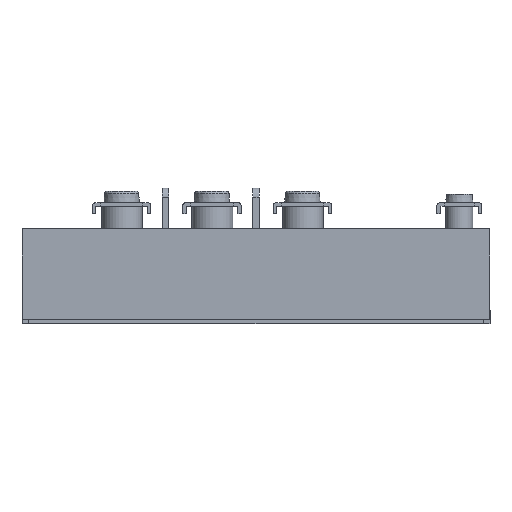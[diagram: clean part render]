
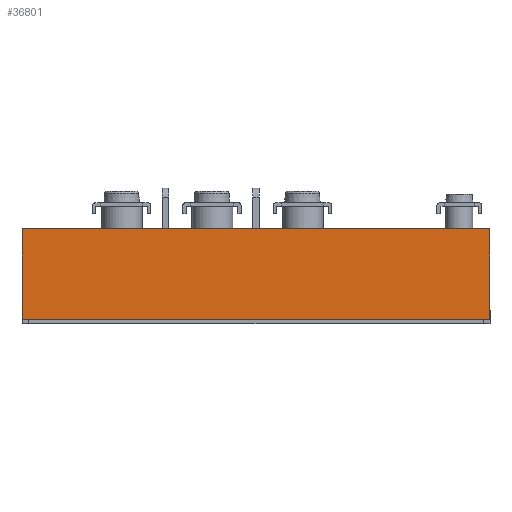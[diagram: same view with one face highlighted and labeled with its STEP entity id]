
A CAD part, front view. The second image highlights one B-rep face of the part: STEP entity #36801.
In plain terms, the highlighted planar face has unit normal (0, -1, 0).
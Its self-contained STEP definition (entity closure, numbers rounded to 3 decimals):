
#31892 = PLANE('',#31893);
#31893 = AXIS2_PLACEMENT_3D('',#31894,#31895,#31896);
#31894 = CARTESIAN_POINT('',(0.,58.813,18.));
#31895 = DIRECTION('',(0.,0.,-1.));
#31896 = DIRECTION('',(-1.,0.,0.));
#32034 = VERTEX_POINT('',#32035);
#32035 = CARTESIAN_POINT('',(-5.85,-1.5,18.));
#32049 = PLANE('',#32050);
#32050 = AXIS2_PLACEMENT_3D('',#32051,#32052,#32053);
#32051 = CARTESIAN_POINT('',(-5.85,5.713,18.));
#32052 = DIRECTION('',(1.,0.,0.));
#32053 = DIRECTION('',(0.,1.,0.));
#32061 = EDGE_CURVE('',#32034,#32062,#32064,.T.);
#32062 = VERTEX_POINT('',#32063);
#32063 = CARTESIAN_POINT('',(97.65,-1.5,18.));
#32064 = SURFACE_CURVE('',#32065,(#32069,#32076),.PCURVE_S1.);
#32065 = LINE('',#32066,#32067);
#32066 = CARTESIAN_POINT('',(-5.85,-1.5,18.));
#32067 = VECTOR('',#32068,1.);
#32068 = DIRECTION('',(1.,0.,0.));
#32069 = PCURVE('',#31892,#32070);
#32070 = DEFINITIONAL_REPRESENTATION('',(#32071),#32075);
#32071 = LINE('',#32072,#32073);
#32072 = CARTESIAN_POINT('',(5.85,-60.313));
#32073 = VECTOR('',#32074,1.);
#32074 = DIRECTION('',(-1.,0.));
#32075 = ( GEOMETRIC_REPRESENTATION_CONTEXT(2) 
PARAMETRIC_REPRESENTATION_CONTEXT() REPRESENTATION_CONTEXT('2D SPACE',''
  ) );
#32076 = PCURVE('',#32077,#32082);
#32077 = PLANE('',#32078);
#32078 = AXIS2_PLACEMENT_3D('',#32079,#32080,#32081);
#32079 = CARTESIAN_POINT('',(-5.85,-1.5,18.));
#32080 = DIRECTION('',(0.,1.,0.));
#32081 = DIRECTION('',(0.,0.,1.));
#32082 = DEFINITIONAL_REPRESENTATION('',(#32083),#32087);
#32083 = LINE('',#32084,#32085);
#32084 = CARTESIAN_POINT('',(0.,0.));
#32085 = VECTOR('',#32086,1.);
#32086 = DIRECTION('',(0.,1.));
#32087 = ( GEOMETRIC_REPRESENTATION_CONTEXT(2) 
PARAMETRIC_REPRESENTATION_CONTEXT() REPRESENTATION_CONTEXT('2D SPACE',''
  ) );
#32105 = PLANE('',#32106);
#32106 = AXIS2_PLACEMENT_3D('',#32107,#32108,#32109);
#32107 = CARTESIAN_POINT('',(97.65,5.709,18.));
#32108 = DIRECTION('',(1.,0.,0.));
#32109 = DIRECTION('',(0.,1.,0.));
#33165 = PLANE('',#33166);
#33166 = AXIS2_PLACEMENT_3D('',#33167,#33168,#33169);
#33167 = CARTESIAN_POINT('',(0.,58.813,-2.));
#33168 = DIRECTION('',(0.,0.,-1.));
#33169 = DIRECTION('',(-1.,0.,0.));
#35133 = VERTEX_POINT('',#35134);
#35134 = CARTESIAN_POINT('',(97.65,-1.5,-2.));
#35155 = EDGE_CURVE('',#35156,#35133,#35158,.T.);
#35156 = VERTEX_POINT('',#35157);
#35157 = CARTESIAN_POINT('',(-5.85,-1.5,-2.));
#35158 = SURFACE_CURVE('',#35159,(#35163,#35170),.PCURVE_S1.);
#35159 = LINE('',#35160,#35161);
#35160 = CARTESIAN_POINT('',(-5.85,-1.5,-2.));
#35161 = VECTOR('',#35162,1.);
#35162 = DIRECTION('',(1.,0.,0.));
#35163 = PCURVE('',#33165,#35164);
#35164 = DEFINITIONAL_REPRESENTATION('',(#35165),#35169);
#35165 = LINE('',#35166,#35167);
#35166 = CARTESIAN_POINT('',(5.85,-60.313));
#35167 = VECTOR('',#35168,1.);
#35168 = DIRECTION('',(-1.,0.));
#35169 = ( GEOMETRIC_REPRESENTATION_CONTEXT(2) 
PARAMETRIC_REPRESENTATION_CONTEXT() REPRESENTATION_CONTEXT('2D SPACE',''
  ) );
#35170 = PCURVE('',#32077,#35171);
#35171 = DEFINITIONAL_REPRESENTATION('',(#35172),#35176);
#35172 = LINE('',#35173,#35174);
#35173 = CARTESIAN_POINT('',(-20.,0.));
#35174 = VECTOR('',#35175,1.);
#35175 = DIRECTION('',(0.,1.));
#35176 = ( GEOMETRIC_REPRESENTATION_CONTEXT(2) 
PARAMETRIC_REPRESENTATION_CONTEXT() REPRESENTATION_CONTEXT('2D SPACE',''
  ) );
#36781 = EDGE_CURVE('',#32062,#35133,#36782,.T.);
#36782 = SURFACE_CURVE('',#36783,(#36787,#36794),.PCURVE_S1.);
#36783 = LINE('',#36784,#36785);
#36784 = CARTESIAN_POINT('',(97.65,-1.5,18.));
#36785 = VECTOR('',#36786,1.);
#36786 = DIRECTION('',(0.,0.,-1.));
#36787 = PCURVE('',#32105,#36788);
#36788 = DEFINITIONAL_REPRESENTATION('',(#36789),#36793);
#36789 = LINE('',#36790,#36791);
#36790 = CARTESIAN_POINT('',(-7.209,0.));
#36791 = VECTOR('',#36792,1.);
#36792 = DIRECTION('',(0.,-1.));
#36793 = ( GEOMETRIC_REPRESENTATION_CONTEXT(2) 
PARAMETRIC_REPRESENTATION_CONTEXT() REPRESENTATION_CONTEXT('2D SPACE',''
  ) );
#36794 = PCURVE('',#32077,#36795);
#36795 = DEFINITIONAL_REPRESENTATION('',(#36796),#36800);
#36796 = LINE('',#36797,#36798);
#36797 = CARTESIAN_POINT('',(0.,103.5));
#36798 = VECTOR('',#36799,1.);
#36799 = DIRECTION('',(-1.,0.));
#36800 = ( GEOMETRIC_REPRESENTATION_CONTEXT(2) 
PARAMETRIC_REPRESENTATION_CONTEXT() REPRESENTATION_CONTEXT('2D SPACE',''
  ) );
#36801 = ADVANCED_FACE('',(#36802),#32077,.F.);
#36802 = FACE_BOUND('',#36803,.T.);
#36803 = EDGE_LOOP('',(#36804,#36805,#36806,#36807));
#36804 = ORIENTED_EDGE('',*,*,#35155,.T.);
#36805 = ORIENTED_EDGE('',*,*,#36781,.F.);
#36806 = ORIENTED_EDGE('',*,*,#32061,.F.);
#36807 = ORIENTED_EDGE('',*,*,#36808,.T.);
#36808 = EDGE_CURVE('',#32034,#35156,#36809,.T.);
#36809 = SURFACE_CURVE('',#36810,(#36814,#36821),.PCURVE_S1.);
#36810 = LINE('',#36811,#36812);
#36811 = CARTESIAN_POINT('',(-5.85,-1.5,18.));
#36812 = VECTOR('',#36813,1.);
#36813 = DIRECTION('',(0.,0.,-1.));
#36814 = PCURVE('',#32077,#36815);
#36815 = DEFINITIONAL_REPRESENTATION('',(#36816),#36820);
#36816 = LINE('',#36817,#36818);
#36817 = CARTESIAN_POINT('',(0.,0.));
#36818 = VECTOR('',#36819,1.);
#36819 = DIRECTION('',(-1.,0.));
#36820 = ( GEOMETRIC_REPRESENTATION_CONTEXT(2) 
PARAMETRIC_REPRESENTATION_CONTEXT() REPRESENTATION_CONTEXT('2D SPACE',''
  ) );
#36821 = PCURVE('',#32049,#36822);
#36822 = DEFINITIONAL_REPRESENTATION('',(#36823),#36827);
#36823 = LINE('',#36824,#36825);
#36824 = CARTESIAN_POINT('',(-7.213,0.));
#36825 = VECTOR('',#36826,1.);
#36826 = DIRECTION('',(0.,-1.));
#36827 = ( GEOMETRIC_REPRESENTATION_CONTEXT(2) 
PARAMETRIC_REPRESENTATION_CONTEXT() REPRESENTATION_CONTEXT('2D SPACE',''
  ) );
